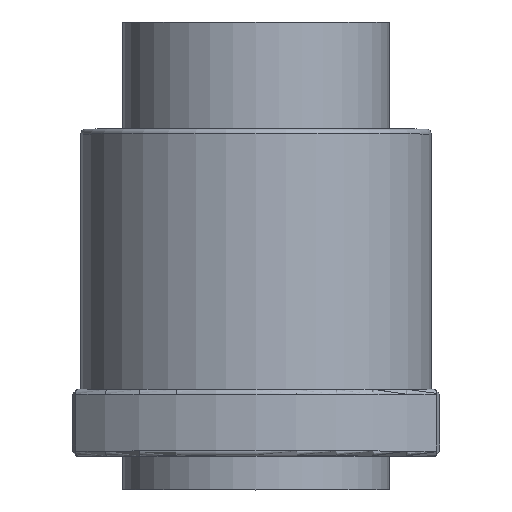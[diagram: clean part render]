
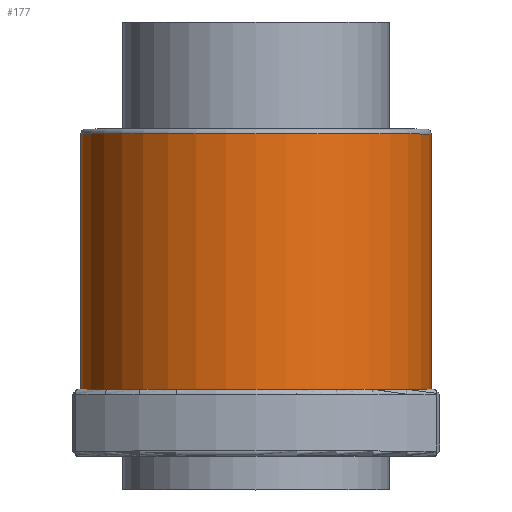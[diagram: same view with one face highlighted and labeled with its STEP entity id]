
A CAD part, top view. The second image highlights one B-rep face of the part: STEP entity #177.
In plain terms, the highlighted cylindrical face has radius 52.5 mm (diameter 105 mm), a full revolution.
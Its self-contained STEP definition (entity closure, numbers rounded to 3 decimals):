
#177=ADVANCED_FACE('',(#266,#267),#229,.T.);
#229=CYLINDRICAL_SURFACE('',#908,52.5);
#266=FACE_BOUND('',#364,.T.);
#267=FACE_BOUND('',#365,.T.);
#364=EDGE_LOOP('',(#488));
#365=EDGE_LOOP('',(#489));
#488=ORIENTED_EDGE('',*,*,#755,.T.);
#489=ORIENTED_EDGE('',*,*,#750,.T.);
#671=VERTEX_POINT('',#1307);
#676=VERTEX_POINT('',#1319);
#750=EDGE_CURVE('',#671,#671,#839,.T.);
#755=EDGE_CURVE('',#676,#676,#842,.T.);
#839=CIRCLE('',#902,52.5);
#842=CIRCLE('',#907,52.5);
#902=AXIS2_PLACEMENT_3D('',#1306,#1058,#1059);
#907=AXIS2_PLACEMENT_3D('',#1318,#1070,#1071);
#908=AXIS2_PLACEMENT_3D('',#1320,#1072,#1073);
#1058=DIRECTION('',(0.,1.,0.));
#1059=DIRECTION('',(0.,0.,-1.));
#1070=DIRECTION('',(0.,-1.,0.));
#1071=DIRECTION('',(0.,0.,-1.));
#1072=DIRECTION('',(0.,1.,0.));
#1073=DIRECTION('',(0.,0.,1.));
#1306=CARTESIAN_POINT('',(0.,20.,0.));
#1307=CARTESIAN_POINT('',(0.,20.,-52.5));
#1318=CARTESIAN_POINT('',(0.,96.5,0.));
#1319=CARTESIAN_POINT('',(0.,96.5,-52.5));
#1320=CARTESIAN_POINT('',(0.,0.,0.));
